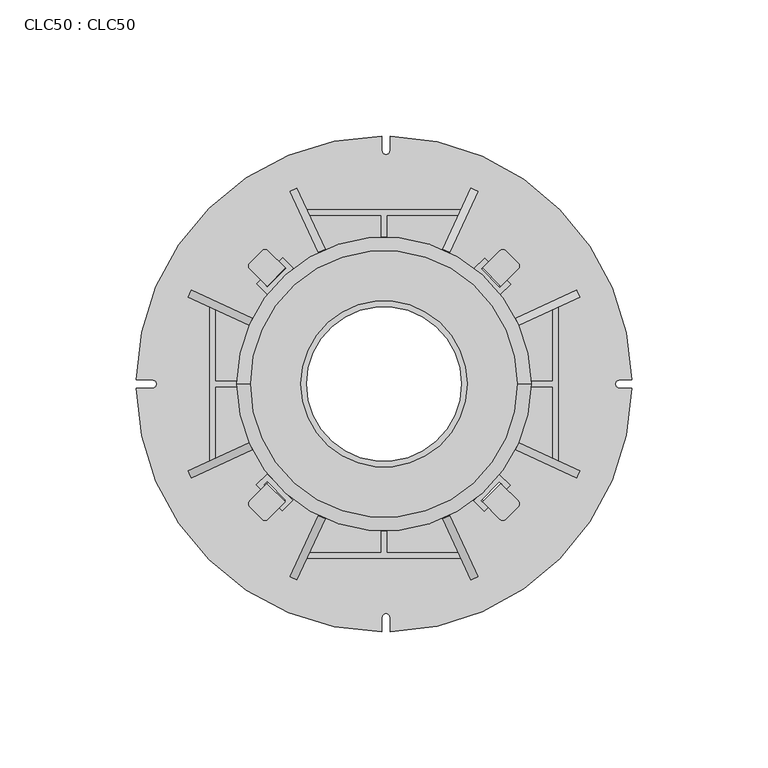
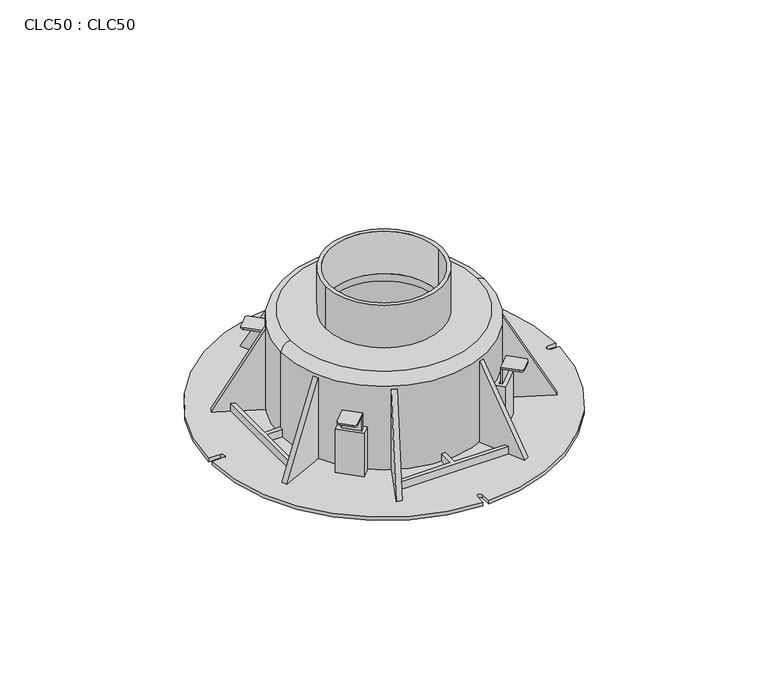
"""IFC4 building model written with IfcOpenShell, lengths in millimetres: proxy geometry, CLC50 : CLC50."""

from ifc_helpers import new_model, si_unit, point, frame, frame_2d, origin, origin_with_axes, origin_2d, place, context, project, spatial, polyline, circle_curve, ellipse_curve, trimmed, segment, composite_curve, outline, extrude, faceted_brep, source, transform, mapped, element, save
from ifc_brep_helpers import plane_surface, cylinder_surface, revolved_surface, advanced_brep


def clc50_clc50_e0bafa5c(model_context):
    return source(origin(), model_context, "Body", "SolidModel", [
        faceted_brep([(-46.6690476, 36.7695526, 26.0), (-42.7799603, 32.8804653, 26.0), (-33.2340187, 42.4264069, 26.0), (-37.123106, 46.3154942, 26.0), (-36.0624458, 42.4264069, 26.0), (-42.7799603, 35.7088924, 26.0), (-43.8406204, 36.7695526, 26.0), (-37.123106, 43.487067, 26.0), (-46.6690476, 36.7695526, 2.0), (-37.123106, 46.3154942, 2.0), (-33.2340187, 42.4264069, 2.0), (-34.6482323, 41.0121933, 2.0), (-37.123106, 43.487067, 2.0), (-43.487067, 37.123106, 2.0), (-43.8406204, 36.7695526, 2.0), (-42.7799603, 35.7088924, 2.0), (-42.4264069, 36.0624458, 2.0), (-41.0121933, 34.6482323, 2.0), (-42.7799603, 32.8804653, 2.0), (-41.0121933, 34.6482323, 5.0), (-34.6482323, 41.0121933, 5.0), (-36.0624458, 42.4264069, 5.0), (-42.4264069, 36.0624458, 5.0)], [[[0, 1, 2, 3], [4, 5, 6, 7]], [[8, 9, 10, 11, 12, 13, 14, 15, 16, 17, 18]], [[0, 3, 9, 8]], [[3, 2, 10, 9]], [[2, 1, 18, 17, 19, 20, 11, 10]], [[1, 0, 8, 18]], [[4, 7, 12, 11, 20, 21]], [[12, 7, 6, 14, 13]], [[6, 5, 15, 14]], [[5, 4, 21, 22, 16, 15]], [[21, 20, 19, 22]], [[22, 19, 17, 16]]]),
        faceted_brep([(36.7695526, -46.6690476, 26.0), (46.3154942, -37.123106, 26.0), (42.4264069, -33.2340187, 26.0), (32.8804653, -42.7799603, 26.0), (42.4264069, -36.0624458, 26.0), (43.487067, -37.123106, 26.0), (36.7695526, -43.8406204, 26.0), (35.7088924, -42.7799603, 26.0), (36.7695526, -46.6690476, 2.0), (32.8804653, -42.7799603, 2.0), (34.6482323, -41.0121933, 2.0), (36.0624458, -42.4264069, 2.0), (35.7088924, -42.7799603, 2.0), (36.7695526, -43.8406204, 2.0), (37.123106, -43.487067, 2.0), (43.487067, -37.123106, 2.0), (41.0121933, -34.6482323, 2.0), (42.4264069, -33.2340187, 2.0), (46.3154942, -37.123106, 2.0), (41.0121933, -34.6482323, 5.0), (34.6482323, -41.0121933, 5.0), (42.4264069, -36.0624458, 5.0), (36.0624458, -42.4264069, 5.0)], [[[0, 1, 2, 3], [4, 5, 6, 7]], [[8, 9, 10, 11, 12, 13, 14, 15, 16, 17, 18]], [[1, 0, 8, 18]], [[2, 1, 18, 17]], [[3, 2, 17, 16, 19, 20, 10, 9]], [[0, 3, 9, 8]], [[5, 4, 21, 19, 16, 15]], [[6, 5, 15, 14, 13]], [[7, 6, 13, 12]], [[4, 7, 12, 11, 22, 21]], [[22, 20, 19, 21]], [[20, 22, 11, 10]]]),
        extrude(outline(composite_curve([segment(trimmed(circle_curve(frame_2d((-48.233839, 43.3102037)), 1.5), [point((-49.2944991, 42.2495436))], [point((-49.2944991, 44.3708639))], False, "CARTESIAN"), True, "CONTINUOUS"), segment(polyline([(-49.2944991, 44.3708639), (-44.7244141, 48.9409489)]), True, "CONTINUOUS"), segment(trimmed(circle_curve(frame_2d((-43.663754, 47.8802887)), 1.5), [point((-44.7244141, 48.9409489))], [point((-42.6074622, 48.9452994))], False, "CARTESIAN"), True, "CONTINUOUS"), segment(polyline([(-42.6074622, 48.9452994), (-36.2129669, 42.6031537), (-42.9305381, 35.8855825), (-49.2944991, 42.2495436)]), True, "CONTINUOUS")], self_intersect=False)), frame((0.0, 0.0, 34.0), z_axis=(0.0, 0.0, 1.0), x_axis=(1.0, 0.0, 0.0)), (0.0, 0.0, 1.0), 1.0),
        extrude(outline(polyline([(-43.6405452, 36.589777), (-36.9506973, 43.3348445), (-36.2406902, 42.63065), (-42.9305381, 35.8855825), (-43.6405452, 36.589777)])), frame((0.0, 0.0, 14.4), z_axis=(0.0, 0.0, 1.0), x_axis=(1.0, 0.0, 0.0)), (0.0, 0.0, 1.0), 19.6),
        extrude(outline(composite_curve([segment(polyline([(42.6011037, -49.6460593), (36.2371427, -43.2820983), (42.9547138, -36.5645271), (49.2968595, -42.9590223)]), True, "CONTINUOUS"), segment(trimmed(circle_curve(frame_2d((48.2318489, -44.0153141)), 1.5), [point((49.2968595, -42.9590223))], [point((49.2925091, -45.0759743))], False, "CARTESIAN"), True, "CONTINUOUS"), segment(polyline([(49.2925091, -45.0759743), (44.7224241, -49.6460593)]), True, "CONTINUOUS"), segment(trimmed(circle_curve(frame_2d((43.6617639, -48.5853991)), 1.5), [point((44.7224241, -49.6460593))], [point((42.6011037, -49.6460593))], False, "CARTESIAN"), True, "CONTINUOUS")], self_intersect=False)), frame((0.0, 0.0, 34.0), z_axis=(0.0, 0.0, 1.0), x_axis=(1.0, 0.0, 0.0)), (0.0, 0.0, 1.0), 1.0),
        extrude(outline(polyline([(36.9413372, -43.9921054), (36.2371427, -43.2820983), (42.9822101, -36.5922503), (43.6864046, -37.3022574), (36.9413372, -43.9921054)])), frame((0.0, 0.0, 14.4), z_axis=(0.0, 0.0, 1.0), x_axis=(1.0, 0.0, 0.0)), (0.0, 0.0, 1.0), 19.6),
        extrude(outline(composite_curve([segment(trimmed(circle_curve(frame_2d((-43.6637571, -48.5853991)), 1.5), [point((-42.603097, -49.6460593))], [point((-44.7244173, -49.6460593))], False, "CARTESIAN"), True, "CONTINUOUS"), segment(polyline([(-44.7244173, -49.6460593), (-49.2945023, -45.0759743)]), True, "CONTINUOUS"), segment(trimmed(circle_curve(frame_2d((-48.2338421, -44.0153141)), 1.5), [point((-49.2945023, -45.0759743))], [point((-49.2988528, -42.9590223))], False, "CARTESIAN"), True, "CONTINUOUS"), segment(polyline([(-49.2988528, -42.9590223), (-42.9567071, -36.5645271), (-36.2391359, -43.2820983), (-42.603097, -49.6460593)]), True, "CONTINUOUS")], self_intersect=False)), frame((0.0, 0.0, 34.0), z_axis=(0.0, 0.0, 1.0), x_axis=(1.0, 0.0, 0.0)), (0.0, 0.0, 1.0), 1.0),
        extrude(outline(polyline([(-36.9433304, -43.9921054), (-43.6883979, -37.3022574), (-42.9842034, -36.5922503), (-36.2391359, -43.2820983), (-36.9433304, -43.9921054)])), frame((0.0, 0.0, 14.4), z_axis=(0.0, 0.0, 1.0), x_axis=(1.0, 0.0, 0.0)), (0.0, 0.0, 1.0), 19.6),
        extrude(outline(composite_curve([segment(polyline([(49.2925059, 42.2495436), (42.9285449, 35.8855825), (36.2109737, 42.6031537), (42.6054689, 48.9452994)]), True, "CONTINUOUS"), segment(trimmed(circle_curve(frame_2d((43.6617607, 47.8802887)), 1.5), [point((42.6054689, 48.9452994))], [point((44.7224209, 48.9409489))], False, "CARTESIAN"), True, "CONTINUOUS"), segment(polyline([(44.7224209, 48.9409489), (49.2925059, 44.3708639)]), True, "CONTINUOUS"), segment(trimmed(circle_curve(frame_2d((48.2318457, 43.3102037)), 1.5), [point((49.2925059, 44.3708639))], [point((49.2925059, 42.2495436))], False, "CARTESIAN"), True, "CONTINUOUS")], self_intersect=False)), frame((0.0, 0.0, 34.0), z_axis=(0.0, 0.0, 1.0), x_axis=(1.0, 0.0, 0.0)), (0.0, 0.0, 1.0), 1.0),
        extrude(outline(polyline([(43.638552, 36.589777), (42.9285449, 35.8855825), (36.238697, 42.63065), (36.9487041, 43.3348445), (43.638552, 36.589777)])), frame((0.0, 0.0, 14.4), z_axis=(0.0, 0.0, 1.0), x_axis=(1.0, 0.0, 0.0)), (0.0, 0.0, 1.0), 19.6),
        extrude(outline(polyline([(-37.3138826, -46.5168011), (-46.8205086, -36.9317053), (-42.9154695, -33.0586354), (-33.4088436, -42.6437313), (-37.3138826, -46.5168011)]), holes=[polyline([(-42.9270947, -35.8870387), (-43.9921054, -36.9433304), (-37.3022574, -43.6883979), (-36.2372468, -42.6321061), (-42.9270947, -35.8870387)])]), frame((0.0, 0.0, 2.0), z_axis=(0.0, 0.0, 1.0), x_axis=(1.0, 0.0, 0.0)), (0.0, 0.0, 1.0), 24.0),
        extrude(outline(polyline([(46.4669552, 36.5781519), (42.5619162, 32.705082), (33.0552902, 42.2901779), (36.9603292, 46.1632477), (46.4669552, 36.5781519)]), holes=[polyline([(35.8836934, 42.2785527), (42.5735413, 35.5334853), (43.638552, 36.589777), (36.9487041, 43.3348445), (35.8836934, 42.2785527)])]), frame((0.0, 0.0, 2.0), z_axis=(0.0, 0.0, 1.0), x_axis=(1.0, 0.0, 0.0)), (0.0, 0.0, 1.0), 24.0),
        extrude(outline(composite_curve([segment(trimmed(circle_curve(origin_2d(), 30.5), [point((-30.5, 0.0))], [point((30.5, 0.0))], False, "CARTESIAN"), True, "CONTINUOUS"), segment(trimmed(circle_curve(origin_2d(), 30.5), [point((30.5, 0.0))], [point((-30.5, 0.0))], False, "CARTESIAN"), True, "CONTINUOUS")], self_intersect=False), holes=[composite_curve([segment(trimmed(circle_curve(origin_2d(), 28.4), [point((-28.4, 0.0))], [point((28.4, 0.0))], True, "CARTESIAN"), True, "CONTINUOUS"), segment(trimmed(circle_curve(origin_2d(), 28.4), [point((28.4, 0.0))], [point((-28.4, 0.0))], True, "CARTESIAN"), True, "CONTINUOUS")], self_intersect=False)]), frame((0.0, 0.0, 53.5), z_axis=(0.0, 0.0, 1.0), x_axis=(1.0, 0.0, 0.0)), (0.0, 0.0, 1.0), 23.5),
        advanced_brep(
        [(-52.0, 0.0, 14.4), (52.0, 0.0, 14.4), (-41.9, 0.0, 14.4), (41.9, 0.0, 14.4), (-52.0, 0.0, 12.4), (52.0, 0.0, 12.4), (-39.9, 0.0, 12.4), (39.9, 0.0, 12.4), (39.9, 0.0, 14.4), (-39.9, 0.0, 14.4), (41.9, 0.0, 21.3), (-41.9, 0.0, 21.3), (-39.9, 0.0, 21.3), (39.9, 0.0, 21.3)],
        [
            (0, 1, circle_curve(frame((0.0, 0.0, 14.4), z_axis=(0.0, 0.0, 1.0), x_axis=(1.0, 0.0, 0.0)), 52.0)),
            (1, 0, circle_curve(frame((0.0, 0.0, 14.4), z_axis=(0.0, 0.0, 1.0), x_axis=(1.0, 0.0, 0.0)), 52.0)),
            (2, 3, circle_curve(frame((0.0, 0.0, 14.4), z_axis=(0.0, 0.0, -1.0), x_axis=(1.0, 0.0, 0.0)), 41.9)),
            (3, 2, circle_curve(frame((0.0, 0.0, 14.4), z_axis=(0.0, 0.0, -1.0), x_axis=(1.0, 0.0, 0.0)), 41.9)),
            (4, 5, circle_curve(frame((0.0, 0.0, 12.4), z_axis=(0.0, 0.0, -1.0), x_axis=(1.0, 0.0, 0.0)), 52.0)),
            (5, 4, circle_curve(frame((0.0, 0.0, 12.4), z_axis=(0.0, 0.0, -1.0), x_axis=(1.0, 0.0, 0.0)), 52.0)),
            (6, 7, circle_curve(frame((0.0, 0.0, 12.4), z_axis=(0.0, 0.0, 1.0), x_axis=(1.0, 0.0, 0.0)), 39.9)),
            (7, 6, circle_curve(frame((0.0, 0.0, 12.4), z_axis=(0.0, 0.0, 1.0), x_axis=(1.0, 0.0, 0.0)), 39.9)),
            (7, 8),
            (8, 9, circle_curve(frame((0.0, 0.0, 14.4), z_axis=(0.0, 0.0, 1.0), x_axis=(1.0, 0.0, 0.0)), 39.9)),
            (9, 6),
            (9, 8, circle_curve(frame((0.0, 0.0, 14.4), z_axis=(0.0, 0.0, 1.0), x_axis=(1.0, 0.0, 0.0)), 39.9)),
            (0, 4),
            (5, 1),
            (10, 11, circle_curve(frame((0.0, 0.0, 21.3), z_axis=(0.0, 0.0, 1.0), x_axis=(1.0, 0.0, 0.0)), 41.9)),
            (11, 10, circle_curve(frame((0.0, 0.0, 21.3), z_axis=(0.0, 0.0, 1.0), x_axis=(1.0, 0.0, 0.0)), 41.9)),
            (12, 13, circle_curve(frame((0.0, 0.0, 21.3), z_axis=(0.0, 0.0, -1.0), x_axis=(1.0, 0.0, 0.0)), 39.9)),
            (13, 12, circle_curve(frame((0.0, 0.0, 21.3), z_axis=(0.0, 0.0, -1.0), x_axis=(1.0, 0.0, 0.0)), 39.9)),
            (12, 9),
            (8, 13),
            (10, 3),
            (2, 11),
        ],
        [
            plane_surface(frame((39.9, 0.0, 14.4), z_axis=(0.0, 0.0, 1.0), x_axis=(0.0, -1.0, 0.0))),
            plane_surface(frame((39.9, 0.0, 12.4), z_axis=(0.0, 0.0, -1.0), x_axis=(0.0, 1.0, 0.0))),
            revolved_surface(polyline([(39.9, 0.0, 12.4), (39.9, 0.0, 14.4)]), (0.0, 0.0, 12.4), (0.0, 0.0, -1.0)),
            cylinder_surface(origin_with_axes(), 52.0),
            plane_surface(frame((39.9, 0.0, 21.3), z_axis=(0.0, 0.0, 1.0), x_axis=(0.0, -1.0, 0.0))),
            revolved_surface(polyline([(39.9, 0.0, 14.4), (39.9, 0.0, 21.3)]), (0.0, 0.0, 14.4), (0.0, 0.0, -1.0)),
            cylinder_surface(frame((0.0, 0.0, 14.4), z_axis=(0.0, 0.0, 1.0), x_axis=(1.0, 0.0, 0.0)), 41.9),
        ],
        [
            (0, [[1, 2], [3, 4]]),
            (1, [[5, 6], [7, 8]]),
            (2, [[-8, 9, 10, 11]]),
            (2, [[-7, -11, 12, -9]]),
            (3, [[-1, 13, -6, 14]]),
            (3, [[-2, -14, -5, -13]]),
            (4, [[15, 16], [17, 18]]),
            (5, [[-17, 19, -10, 20]]),
            (5, [[-18, -20, -12, -19]]),
            (6, [[-15, 21, -3, 22]]),
            (6, [[-16, -22, -4, -21]]),
        ],
    ),
        extrude(outline(composite_curve([segment(polyline([(-85.0, 1.5), (-90.9876365, 1.5)]), True, "CONTINUOUS"), segment(trimmed(circle_curve(origin_2d(), 91.0), [point((-90.9876365, 1.5))], [point((-0.7499745, 90.9969095))], False, "CARTESIAN"), True, "CONTINUOUS"), segment(polyline([(-0.7499745, 90.9969095), (-0.7499745, 85.7500255)]), True, "CONTINUOUS"), segment(trimmed(circle_curve(frame_2d((0.7500255, 85.7500255)), 1.5), [point((-0.7499745, 85.7500255))], [point((2.2500255, 85.7500255))], True, "CARTESIAN"), True, "CONTINUOUS"), segment(polyline([(2.2500255, 85.7500255), (2.2500255, 90.9721792)]), True, "CONTINUOUS"), segment(trimmed(circle_curve(origin_2d(), 91.0), [point((2.2500255, 90.9721792))], [point((90.9876365, 1.5))], False, "CARTESIAN"), True, "CONTINUOUS"), segment(polyline([(90.9876365, 1.5), (86.500051, 1.5)]), True, "CONTINUOUS"), segment(trimmed(circle_curve(frame_2d((86.500051, 0.0)), 1.5), [point((86.500051, 1.5))], [point((86.500051, -1.5))], True, "CARTESIAN"), True, "CONTINUOUS"), segment(polyline([(86.500051, -1.5), (90.9876365, -1.5)]), True, "CONTINUOUS"), segment(trimmed(circle_curve(origin_2d(), 91.0), [point((90.9876365, -1.5))], [point((2.2500255, -90.9721792))], False, "CARTESIAN"), True, "CONTINUOUS"), segment(polyline([(2.2500255, -90.9721792), (2.2500255, -85.7500255)]), True, "CONTINUOUS"), segment(trimmed(circle_curve(frame_2d((0.7500255, -85.7500255)), 1.5), [point((2.2500255, -85.7500255))], [point((-0.7499745, -85.7500255))], True, "CARTESIAN"), True, "CONTINUOUS"), segment(polyline([(-0.7499745, -85.7500255), (-0.7499745, -90.9969095)]), True, "CONTINUOUS"), segment(trimmed(circle_curve(origin_2d(), 91.0), [point((-0.7499745, -90.9969095))], [point((-90.9876365, -1.5))], False, "CARTESIAN"), True, "CONTINUOUS"), segment(polyline([(-90.9876365, -1.5), (-85.0, -1.5)]), True, "CONTINUOUS"), segment(trimmed(circle_curve(frame_2d((-85.0, 0.0)), 1.5), [point((-85.0, -1.5))], [point((-85.0, 1.5))], True, "CARTESIAN"), True, "CONTINUOUS")], self_intersect=False), holes=[composite_curve([segment(trimmed(circle_curve(origin_2d(), 52.0), [point((39.8135925, -33.4496315))], [point((52.0, 0.0))], True, "CARTESIAN"), True, "CONTINUOUS"), segment(trimmed(circle_curve(origin_2d(), 52.0), [point((52.0, 0.0))], [point((39.8135925, 33.4496315))], True, "CARTESIAN"), True, "CONTINUOUS"), segment(polyline([(39.8135925, 33.4496315), (43.487067, 37.123106), (37.123106, 43.487067), (33.4496315, 39.8135925)]), True, "CONTINUOUS"), segment(trimmed(circle_curve(origin_2d(), 52.0), [point((33.4496315, 39.8135925))], [point((-33.4496315, 39.8135925))], True, "CARTESIAN"), True, "CONTINUOUS"), segment(polyline([(-33.4496315, 39.8135925), (-37.123106, 43.487067), (-43.487067, 37.123106), (-39.8135925, 33.4496315)]), True, "CONTINUOUS"), segment(trimmed(circle_curve(origin_2d(), 52.0), [point((-39.8135925, 33.4496315))], [point((-52.0, 0.0))], True, "CARTESIAN"), True, "CONTINUOUS"), segment(trimmed(circle_curve(origin_2d(), 52.0), [point((-52.0, 0.0))], [point((-39.8135925, -33.4496315))], True, "CARTESIAN"), True, "CONTINUOUS"), segment(polyline([(-39.8135925, -33.4496315), (-43.487067, -37.123106), (-37.123106, -43.487067), (-33.4496315, -39.8135925)]), True, "CONTINUOUS"), segment(trimmed(circle_curve(origin_2d(), 52.0), [point((-33.4496315, -39.8135925))], [point((33.4496315, -39.8135925))], True, "CARTESIAN"), True, "CONTINUOUS"), segment(polyline([(33.4496315, -39.8135925), (37.123106, -43.487067), (43.487067, -37.123106), (39.8135925, -33.4496315)]), True, "CONTINUOUS")], self_intersect=False)]), origin_with_axes(), (0.0, 0.0, 1.0), 2.0),
        extrude(outline(polyline([(-1.0, -54.0), (1.0, -54.0), (1.0, -62.0), (27.3663457, -62.0), (28.298961, -64.0), (-28.298961, -64.0), (-27.3663457, -62.0), (-1.0, -62.0), (-1.0, -54.0)])), frame((0.0, 0.0, 2.0), z_axis=(0.0, 0.0, 1.0), x_axis=(1.0, 0.0, 0.0)), (0.0, 0.0, 1.0), 4.5),
        extrude(outline(polyline([(-54.0, 1.0), (-54.0, -1.0), (-62.0, -1.0), (-62.0, -27.3663457), (-64.0, -28.298961), (-64.0, 28.298961), (-62.0, 27.3663457), (-62.0, 1.0), (-54.0, 1.0)])), frame((0.0, 0.0, 2.0), z_axis=(0.0, 0.0, 1.0), x_axis=(1.0, 0.0, 0.0)), (0.0, 0.0, 1.0), 4.5),
        extrude(outline(polyline([(1.0, 54.0), (-1.0, 54.0), (-1.0, 62.0), (-27.3663457, 62.0), (-28.298961, 64.0), (28.298961, 64.0), (27.3663457, 62.0), (1.0, 62.0), (1.0, 54.0)])), frame((0.0, 0.0, 2.0), z_axis=(0.0, 0.0, 1.0), x_axis=(1.0, 0.0, 0.0)), (0.0, 0.0, 1.0), 4.5),
        extrude(outline(polyline([(54.0, -1.0), (54.0, 1.0), (62.0, 1.0), (62.0, 27.3663457), (64.0, 28.298961), (64.0, -28.298961), (62.0, -27.3663457), (62.0, -1.0), (54.0, -1.0)])), frame((0.0, 0.0, 2.0), z_axis=(0.0, 0.0, 1.0), x_axis=(1.0, 0.0, 0.0)), (0.0, 0.0, 1.0), 4.5),
        extrude(outline(polyline([(-45.0, 0.0), (0.0, 0.0), (0.0, -25.0), (-45.0, 0.0)])), frame((49.5322861, 21.5525552, 2.0), z_axis=(-0.4226182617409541, 0.9063077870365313, 0.0), x_axis=(0.0, 0.0, -1.0)), (0.0, 0.0, 1.0), 2.8),
        extrude(outline(polyline([(-51.4781507, 0.0), (0.0, 0.0), (-12.1410733, -21.8539319), (-51.4781507, 0.0)])), frame((-71.0066496, -34.6556736, 2.0), z_axis=(-0.4226182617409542, 0.9063077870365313, 0.0), x_axis=(-0.44014197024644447, -0.2052415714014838, -0.8741572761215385)), (0.0, 0.0, 1.0), 2.8),
        extrude(outline(polyline([(51.4781507, 0.0), (12.1410733, -21.8539319), (0.0, 0.0), (51.4781507, 0.0)])), frame((71.0066496, -34.6556736, 2.0), z_axis=(0.4226182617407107, 0.9063077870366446, 0.0), x_axis=(-0.44014197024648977, 0.20524157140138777, 0.8741572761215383)), (0.0, 0.0, 1.0), 2.8),
        extrude(outline(polyline([(45.0, 0.0), (0.0, -25.0), (0.0, 0.0), (45.0, 0.0)])), frame((-49.5322861, 21.5525552, 2.0), z_axis=(0.4226182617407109, 0.9063077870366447, 0.0), x_axis=(0.0, 0.0, 1.0)), (0.0, 0.0, 1.0), 2.8),
        extrude(outline(polyline([(45.0, 0.0), (0.0, -25.0), (0.0, 0.0), (45.0, 0.0)])), frame((-24.090217, 48.3489549, 2.0), z_axis=(0.906307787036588, 0.4226182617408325, 0.0), x_axis=(0.0, 0.0, 1.0)), (0.0, 0.0, 1.0), 2.8),
        extrude(outline(polyline([(51.4781507, 0.0), (12.1410733, -21.8539319), (0.0, 0.0), (51.4781507, 0.0)])), frame((32.1180118, -72.1899807, 2.0), z_axis=(0.906307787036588, 0.4226182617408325, 0.0), x_axis=(-0.2052415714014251, 0.4401419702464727, 0.874157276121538)), (0.0, 0.0, 1.0), 2.8),
        extrude(outline(polyline([(51.4781507, 0.0), (12.1410733, -21.8539319), (0.0, 0.0), (51.4781507, 0.0)])), frame((34.6556736, 71.0066496, 2.0), z_axis=(-0.9063077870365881, 0.4226182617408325, 0.0), x_axis=(-0.20524157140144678, -0.4401419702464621, 0.8741572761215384)), (0.0, 0.0, 1.0), 2.8),
        extrude(outline(polyline([(45.0, 0.0), (0.0, -25.0), (0.0, 0.0), (45.0, 0.0)])), frame((-21.5525552, -49.5322861, 2.0), z_axis=(-0.906307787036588, 0.4226182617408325, 0.0), x_axis=(0.0, 0.0, 1.0)), (0.0, 0.0, 1.0), 2.8),
        advanced_brep(
        [(49.0, 0.0, 53.5), (-49.0, 0.0, 53.5), (28.4, 0.0, 53.5), (-28.4, 0.0, 53.5), (-54.0, 0.0, 2.0), (-41.2329332, 34.8689722, 2.0), (-39.8135925, 33.4496315, 2.0), (-52.0, 0.0, 2.0), (-39.8135925, -33.4496315, 2.0), (-41.2329332, -34.8689722, 2.0), (-34.8689722, 41.2329332, 2.0), (34.8689722, 41.2329332, 2.0), (33.4496315, 39.8135925, 2.0), (-33.4496315, 39.8135925, 2.0), (41.2329332, 34.8689722, 2.0), (54.0, 0.0, 2.0), (41.2329332, -34.8689722, 2.0), (39.8135925, -33.4496315, 2.0), (52.0, 0.0, 2.0), (39.8135925, 33.4496315, 2.0), (34.8689722, -41.2329332, 2.0), (-34.8689722, -41.2329332, 2.0), (-33.4496315, -39.8135925, 2.0), (33.4496315, -39.8135925, 2.0), (-54.0, 0.0, 48.5000151), (-41.2329332, -34.8689722, 5.0), (-41.2329332, -34.8689722, 12.4), (-34.8689722, -41.2329332, 12.4), (-34.8689722, -41.2329332, 5.0), (34.8689722, -41.2329332, 5.0), (34.8689722, -41.2329332, 12.4), (41.2329332, -34.8689722, 12.4), (41.2329332, -34.8689722, 5.0), (54.0, 0.0, 48.5000021), (41.2329332, 34.8689722, 5.0), (41.2329332, 34.8689722, 12.4), (34.8689722, 41.2329332, 12.4), (34.8689722, 41.2329332, 5.0), (-34.8689722, 41.2329332, 5.0), (-34.8689722, 41.2329332, 12.4), (-41.2329332, 34.8689722, 12.4), (-41.2329332, 34.8689722, 5.0), (-52.0, 0.0, 49.5), (52.0, 0.0, 49.5), (-28.4, 0.0, 49.5), (28.4, 0.0, 49.5), (39.8135925, -33.4496315, 5.0), (39.8135925, -33.4496315, 12.4), (33.4496315, -39.8135925, 12.4), (33.4496315, -39.8135925, 5.0), (-33.4496315, -39.8135925, 5.0), (-33.4496315, -39.8135925, 12.4), (-39.8135925, -33.4496315, 12.4), (-39.8135925, -33.4496315, 5.0), (-39.8135925, 33.4496315, 5.0), (-39.8135925, 33.4496315, 12.4), (-33.4496315, 39.8135925, 12.4), (-33.4496315, 39.8135925, 5.0), (33.4496315, 39.8135925, 5.0), (33.4496315, 39.8135925, 12.4), (39.8135925, 33.4496315, 12.4), (39.8135925, 33.4496315, 5.0)],
        [
            (0, 1, circle_curve(frame((0.0, 0.0, 53.5), z_axis=(0.0, 0.0, 1.0), x_axis=(1.0, 0.0, 0.0)), 49.0)),
            (1, 0, circle_curve(frame((0.0, 0.0, 53.5), z_axis=(0.0, 0.0, 1.0), x_axis=(1.0, 0.0, 0.0)), 49.0)),
            (2, 3, circle_curve(frame((0.0, 0.0, 53.5), z_axis=(0.0, 0.0, -1.0), x_axis=(1.0, 0.0, 0.0)), 28.4)),
            (3, 2, circle_curve(frame((0.0, 0.0, 53.5), z_axis=(0.0, 0.0, -1.0), x_axis=(1.0, 0.0, 0.0)), 28.4)),
            (4, 5, circle_curve(frame((0.0, 0.0, 2.0), z_axis=(0.0, 0.0, -1.0), x_axis=(1.0, 0.0, 0.0)), 54.0)),
            (5, 6),
            (6, 7, circle_curve(frame((0.0, 0.0, 2.0), z_axis=(0.0, 0.0, 1.0), x_axis=(1.0, 0.0, 0.0)), 52.0)),
            (7, 8, circle_curve(frame((0.0, 0.0, 2.0), z_axis=(0.0, 0.0, 1.0), x_axis=(1.0, 0.0, 0.0)), 52.0)),
            (8, 9),
            (9, 4, circle_curve(frame((0.0, 0.0, 2.0), z_axis=(0.0, 0.0, -1.0), x_axis=(1.0, 0.0, 0.0)), 54.0)),
            (10, 11, circle_curve(frame((0.0, 0.0, 2.0), z_axis=(0.0, 0.0, -1.0), x_axis=(1.0, 0.0, 0.0)), 54.0)),
            (11, 12),
            (12, 13, circle_curve(frame((0.0, 0.0, 2.0), z_axis=(0.0, 0.0, 1.0), x_axis=(1.0, 0.0, 0.0)), 52.0)),
            (13, 10),
            (14, 15, circle_curve(frame((0.0, 0.0, 2.0), z_axis=(0.0, 0.0, -1.0), x_axis=(1.0, 0.0, 0.0)), 54.0)),
            (15, 16, circle_curve(frame((0.0, 0.0, 2.0), z_axis=(0.0, 0.0, -1.0), x_axis=(1.0, 0.0, 0.0)), 54.0)),
            (16, 17),
            (17, 18, circle_curve(frame((0.0, 0.0, 2.0), z_axis=(0.0, 0.0, 1.0), x_axis=(1.0, 0.0, 0.0)), 52.0)),
            (18, 19, circle_curve(frame((0.0, 0.0, 2.0), z_axis=(0.0, 0.0, 1.0), x_axis=(1.0, 0.0, 0.0)), 52.0)),
            (19, 14),
            (20, 21, circle_curve(frame((0.0, 0.0, 2.0), z_axis=(0.0, 0.0, -1.0), x_axis=(1.0, 0.0, 0.0)), 54.0)),
            (21, 22),
            (22, 23, circle_curve(frame((0.0, 0.0, 2.0), z_axis=(0.0, 0.0, 1.0), x_axis=(1.0, 0.0, 0.0)), 52.0)),
            (23, 20),
            (24, 4),
            (9, 25),
            (25, 26),
            (26, 27, circle_curve(frame((0.0, 0.0, 12.4), z_axis=(0.0, 0.0, 1.0), x_axis=(1.0, 0.0, 0.0)), 54.0)),
            (27, 28),
            (28, 21),
            (20, 29),
            (29, 30),
            (30, 31, circle_curve(frame((0.0, 0.0, 12.4), z_axis=(0.0, 0.0, 1.0), x_axis=(1.0, 0.0, 0.0)), 54.0)),
            (31, 32),
            (32, 16),
            (15, 33),
            (33, 24, circle_curve(frame((0.0, 0.0, 48.5), z_axis=(0.0, 0.0, -1.0), x_axis=(1.0, 0.0, 0.0)), 54.0)),
            (24, 33, circle_curve(frame((0.0, 0.0, 48.5), z_axis=(0.0, 0.0, -1.0), x_axis=(1.0, 0.0, 0.0)), 54.0)),
            (14, 34),
            (34, 35),
            (35, 36, circle_curve(frame((0.0, 0.0, 12.4), z_axis=(0.0, 0.0, 1.0), x_axis=(1.0, 0.0, 0.0)), 54.0)),
            (36, 37),
            (37, 11),
            (10, 38),
            (38, 39),
            (39, 40, circle_curve(frame((0.0, 0.0, 12.4), z_axis=(0.0, 0.0, 1.0), x_axis=(1.0, 0.0, 0.0)), 54.0)),
            (40, 41),
            (41, 5),
            (24, 1, circle_curve(frame((-49.0, 0.0, 48.5), z_axis=(0.0, 1.0, 0.0), x_axis=(-1.0, 0.0, 0.0)), 5.0)),
            (0, 33, circle_curve(frame((49.0, 0.0, 48.5), z_axis=(0.0, 1.0, 0.0), x_axis=(1.0, 0.0, 0.0)), 5.0)),
            (42, 43, circle_curve(frame((0.0, 0.0, 49.5), z_axis=(0.0, 0.0, -1.0), x_axis=(1.0, 0.0, 0.0)), 52.0)),
            (43, 42, circle_curve(frame((0.0, 0.0, 49.5), z_axis=(0.0, 0.0, -1.0), x_axis=(1.0, 0.0, 0.0)), 52.0)),
            (44, 45, circle_curve(frame((0.0, 0.0, 49.5), z_axis=(0.0, 0.0, 1.0), x_axis=(1.0, 0.0, 0.0)), 28.4)),
            (45, 44, circle_curve(frame((0.0, 0.0, 49.5), z_axis=(0.0, 0.0, 1.0), x_axis=(1.0, 0.0, 0.0)), 28.4)),
            (43, 18),
            (17, 46),
            (46, 47),
            (47, 48, circle_curve(frame((0.0, 0.0, 12.4), z_axis=(0.0, 0.0, -1.0), x_axis=(1.0, 0.0, 0.0)), 52.0)),
            (48, 49),
            (49, 23),
            (22, 50),
            (50, 51),
            (51, 52, circle_curve(frame((0.0, 0.0, 12.4), z_axis=(0.0, 0.0, -1.0), x_axis=(1.0, 0.0, 0.0)), 52.0)),
            (52, 53),
            (53, 8),
            (7, 42),
            (6, 54),
            (54, 55),
            (55, 56, circle_curve(frame((0.0, 0.0, 12.4), z_axis=(0.0, 0.0, -1.0), x_axis=(1.0, 0.0, 0.0)), 52.0)),
            (56, 57),
            (57, 13),
            (12, 58),
            (58, 59),
            (59, 60, circle_curve(frame((0.0, 0.0, 12.4), z_axis=(0.0, 0.0, -1.0), x_axis=(1.0, 0.0, 0.0)), 52.0)),
            (60, 61),
            (61, 19),
            (39, 56),
            (55, 40),
            (30, 48),
            (47, 31),
            (26, 52),
            (51, 27),
            (35, 60),
            (59, 36),
            (44, 3),
            (2, 45),
        ],
        [
            plane_surface(frame((54.0, 0.0, 53.5), z_axis=(0.0, 0.0, 1.0), x_axis=(0.0, 1.0, 0.0))),
            plane_surface(frame((54.0, 0.0, 2.0), z_axis=(0.0, 0.0, -1.0), x_axis=(0.0, -1.0, 0.0))),
            cylinder_surface(frame((0.0, 0.0, 2.0), z_axis=(0.0, 0.0, 1.0), x_axis=(1.0, 0.0, 0.0)), 54.0),
            revolved_surface(trimmed(ellipse_curve(frame((49.0, 0.0, 48.5), z_axis=(0.0, -1.0, 0.0), x_axis=(1.0, 0.0, 0.0)), 5.0, 5.0), [point((54.0, 0.0, 48.5))], [point((49.0, 0.0, 53.5))], True, "CARTESIAN"), (0.0, 0.0, 113.5), (0.0, 0.0, 1.0)),
            plane_surface(frame((52.0, 0.0, 49.5), z_axis=(0.0, 0.0, -1.0), x_axis=(0.0, 1.0, 0.0))),
            revolved_surface(polyline([(52.0, 0.0, 49.5), (52.0, 0.0, 2.0)]), (0.0, 0.0, 0.0), (0.0, 0.0, 1.0)),
            plane_surface(frame((-39.9515331, 33.5875721, 12.4), z_axis=(0.0, 0.0, -1.0000000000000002), x_axis=(0.7071067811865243, -0.7071067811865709, 0.0))),
            plane_surface(frame((-43.487067, 37.123106, 12.4), z_axis=(0.7071067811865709, 0.7071067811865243, 0.0), x_axis=(0.0, 0.0, -1.0))),
            plane_surface(frame((-33.078644, 39.442605, 12.4), z_axis=(-0.707106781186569, -0.7071067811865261, 0.0), x_axis=(0.0, 0.0, -1.0))),
            plane_surface(frame((43.487067, -37.123106, 12.4), z_axis=(-0.7071067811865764, -0.7071067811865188, 0.0), x_axis=(0.0, 0.0, -1.0))),
            plane_surface(frame((33.078644, -39.442605, 12.4), z_axis=(0.7071067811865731, 0.707106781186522, 0.0), x_axis=(0.0, 0.0, -1.0))),
            plane_surface(frame((-37.123106, -43.487067, 12.4), z_axis=(-0.7071067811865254, 0.7071067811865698, 0.0), x_axis=(0.0, 0.0, -1.0))),
            plane_surface(frame((-39.442605, -33.078644, 12.4), z_axis=(0.7071067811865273, -0.7071067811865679, 0.0), x_axis=(0.0, 0.0, -1.0))),
            plane_surface(frame((37.123106, 43.487067, 12.4), z_axis=(0.7071067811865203, -0.707106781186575, 0.0), x_axis=(0.0, 0.0, -1.0))),
            plane_surface(frame((39.442605, 33.078644, 12.4), z_axis=(-0.707106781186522, 0.7071067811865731, 0.0), x_axis=(0.0, 0.0, -1.0))),
            revolved_surface(polyline([(28.4, 0.0, 53.5), (28.4, 0.0, 49.5)]), (0.0, 0.0, 36.8802368), (0.0, 0.0, 1.0)),
        ],
        [
            (0, [[1, 2], [3, 4]]),
            (1, [[5, 6, 7, 8, 9, 10]]),
            (1, [[11, 12, 13, 14]]),
            (1, [[15, 16, 17, 18, 19, 20]]),
            (1, [[21, 22, 23, 24]]),
            (2, [[25, -10, 26, 27, 28, 29, 30, -21, 31, 32, 33, 34, 35, -16, 36, 37]]),
            (2, [[-25, 38, -36, -15, 39, 40, 41, 42, 43, -11, 44, 45, 46, 47, 48, -5]]),
            (3, [[49, -1, 50, -38]]),
            (3, [[-49, -37, -50, -2]]),
            (4, [[51, 52], [53, 54]]),
            (5, [[-52, 55, -18, 56, 57, 58, 59, 60, -23, 61, 62, 63, 64, 65, -8, 66]]),
            (5, [[-51, -66, -7, 67, 68, 69, 70, 71, -13, 72, 73, 74, 75, 76, -19, -55]]),
            (6, [[77, -69, 78, -46]]),
            (6, [[79, -58, 80, -33]]),
            (6, [[81, -63, 82, -28]]),
            (6, [[83, -74, 84, -41]]),
            (7, [[-78, -68, -67, -6, -48, -47]]),
            (8, [[-77, -45, -44, -14, -71, -70]]),
            (9, [[-80, -57, -56, -17, -35, -34]]),
            (10, [[-79, -32, -31, -24, -60, -59]]),
            (11, [[-82, -62, -61, -22, -30, -29]]),
            (12, [[-81, -27, -26, -9, -65, -64]]),
            (13, [[-84, -73, -72, -12, -43, -42]]),
            (14, [[-83, -40, -39, -20, -76, -75]]),
            (15, [[85, -3, 86, -53]]),
            (15, [[-85, -54, -86, -4]]),
        ],
    ),
    ])


if __name__ == "__main__":
    model = new_model("IFC4")
    model_context = context("Model", 3, world=origin())
    ifc_project = project(units=[si_unit("LENGTHUNIT", "METRE", prefix="MILLI")], contexts=[model_context])
    site = spatial("IfcSite", under=ifc_project)
    building = spatial("IfcBuilding", under=site)
    placement = place(None, origin())
    clc50_clc50_shape = clc50_clc50_e0bafa5c(model_context)
    element("IfcBuildingElementProxy", 1, Name="CLC50 : CLC50", ObjectType="CLC50 : CLC50", at=placement, inside=building, context=model_context, shape_type="MappedRepresentation", body=[
        mapped(clc50_clc50_shape, transform((0.0, 0.0, 0.0), x_axis=(1.0, 0.0, 0.0), y_axis=(0.0, 1.0, 0.0), z_axis=(0.0, 0.0, 1.0))),
    ])
    save(model, "model.ifc")
